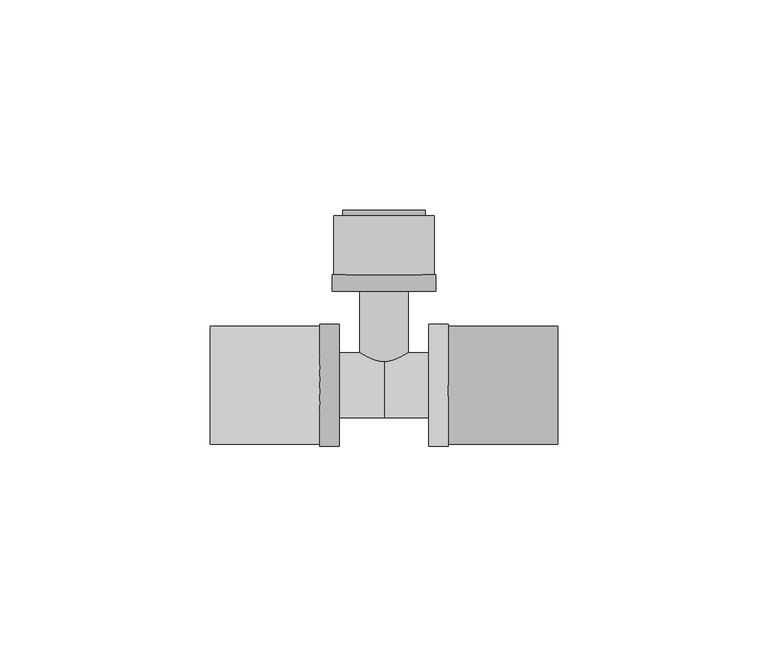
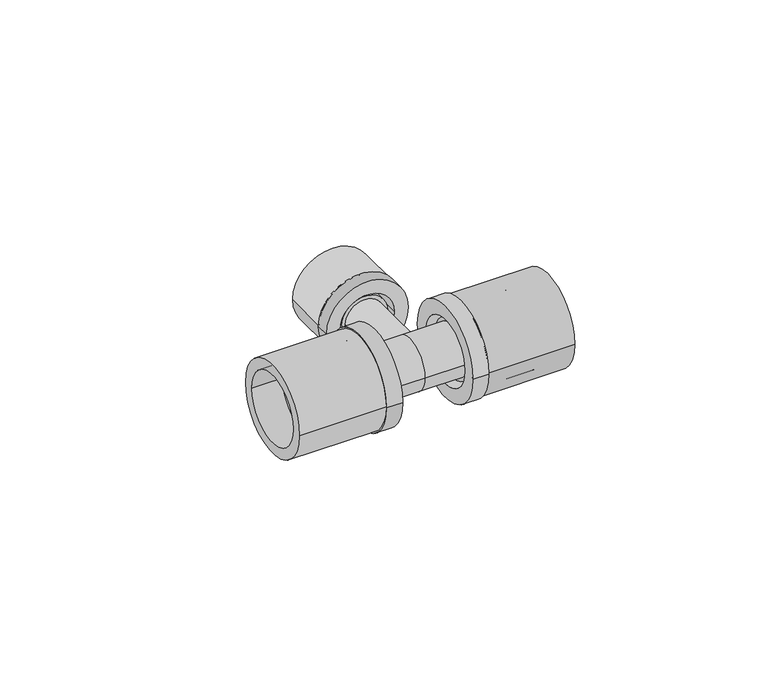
"""IFC4 building model written with IfcOpenShell, lengths in millimetres: pipe fitting geometry, FASTLOC_T-piece_EX+ : FSL T-Piece EX+ AT."""

import ifcopenshell
import ifcopenshell.guid

model = None  # the IFC model being written
_history = None  # IfcOwnerHistory: only IFC2X3 demands one
_inside = {}  # id of a spatial element -> (the spatial element, [elements in it])
_under = {}  # id of a project, library or spatial element -> (it, [spatial elements below it])
_declared = {}  # id of a project -> (the project, [libraries it declares])
_typed = {}  # id of a type object -> (the type object, [elements of that type])
_made_of = {}  # id of a material, layer set ... -> (it, [elements and type objects made of it])


def new_model(schema):
    """Start an empty IFC model of exactly this schema.

    Asked for "IFC4X3", IfcOpenShell would pick the latest addendum, in which some entities
    have other attributes; the version numbers below select the first issue.
    IFC2X3 requires an IfcOwnerHistory on every rooted entity: one is made here for all.
    """
    global model, _history
    if schema == "IFC4X3":
        model = ifcopenshell.file(schema_version=(4, 3, 0, 0))
    else:
        model = ifcopenshell.file(schema=schema)
    _inside.clear()
    _under.clear()
    _declared.clear()
    _typed.clear()
    _made_of.clear()
    _history = None
    if model.schema == "IFC2X3":
        org = make("IfcOrganization", Name="unknown")
        user = make(
            "IfcPersonAndOrganization",
            ThePerson=make("IfcPerson", FamilyName="unknown"),
            TheOrganization=org,
        )
        app = make(
            "IfcApplication",
            ApplicationDeveloper=org,
            Version="unknown",
            ApplicationFullName="unknown",
            ApplicationIdentifier="unknown",
        )
        _history = make(
            "IfcOwnerHistory",
            OwningUser=user,
            OwningApplication=app,
            ChangeAction="ADDED",
            CreationDate=0,
        )
    return model


def make(cls, **values):
    """One entity of the class cls with the attributes given. An attribute that is None is left unset."""
    return model.create_entity(
        cls, **{name: value for name, value in values.items() if value is not None}
    )


def rooted(cls, **values):
    """An entity with a GlobalId (a new one), such as an element, a storey or a relation."""
    return make(cls, GlobalId=ifcopenshell.guid.new(), OwnerHistory=_history, **values)


def si_unit(unit_type, name, prefix=None):
    """IfcSIUnit, for example si_unit("LENGTHUNIT", "METRE", prefix="MILLI")."""
    return make("IfcSIUnit", UnitType=unit_type, Prefix=prefix, Name=name)


def assignment(units):
    """IfcUnitAssignment: the units of a project."""
    return None if units is None else make("IfcUnitAssignment", Units=units)


def point(xyz):
    """IfcCartesianPoint."""
    return None if xyz is None else make("IfcCartesianPoint", Coordinates=xyz)


def direction(xyz):
    """IfcDirection."""
    return None if xyz is None else make("IfcDirection", DirectionRatios=xyz)


def frame(location, z_axis=None, x_axis=None):
    """IfcAxis2Placement3D, a coordinate frame: its origin and axes. An axis left out is left unset."""
    return make(
        "IfcAxis2Placement3D",
        Location=point(location),
        Axis=direction(z_axis),
        RefDirection=direction(x_axis),
    )


def frame_2d(location, x_axis=None):
    """IfcAxis2Placement2D, a coordinate frame in the plane: its origin and x axis."""
    return make(
        "IfcAxis2Placement2D", Location=point(location), RefDirection=direction(x_axis)
    )


def origin():
    """The frame at (0, 0, 0) with its axes left unset."""
    return frame((0.0, 0.0, 0.0))


def origin_2d():
    """The frame at (0, 0) in the plane with its x axis left unset."""
    return frame_2d((0.0, 0.0))


def place(relative_to, where):
    """IfcLocalPlacement: puts the frame where relative to a parent placement (None: the world)."""
    return make(
        "IfcLocalPlacement", PlacementRelTo=relative_to, RelativePlacement=where
    )


def context(
    kind, dimensions, precision=None, world=None, true_north=None, identifier=None
):
    """IfcGeometricRepresentationContext, for example the 3D "Model" context."""
    return make(
        "IfcGeometricRepresentationContext",
        ContextIdentifier=identifier,
        ContextType=kind,
        CoordinateSpaceDimension=dimensions,
        Precision=precision,
        WorldCoordinateSystem=world,
        TrueNorth=true_north,
    )


def project(units=None, contexts=None):
    """IfcProject with its units and contexts."""
    return rooted(
        "IfcProject",
        Name="project",
        RepresentationContexts=contexts,
        UnitsInContext=assignment(units),
    )


def spatial(cls, under=None, at=None, **own):
    """A site, building, storey or space (cls), placed at a placement, below another one or the project."""
    s = rooted(cls, ObjectPlacement=at, **own)
    if under is not None:
        _under.setdefault(under.id(), (under, []))[1].append(s)
    return s


def polyline(points):
    """IfcPolyline through the points."""
    return make("IfcPolyline", Points=[point(p) for p in points])


def circle_curve(where, radius):
    """IfcCircle in the frame where."""
    return make("IfcCircle", Position=where, Radius=radius)


def trimmed(basis, trim1, trim2, sense, master):
    """IfcTrimmedCurve: the piece of a basis curve between two trims."""
    return make(
        "IfcTrimmedCurve",
        BasisCurve=basis,
        Trim1=trim1,
        Trim2=trim2,
        SenseAgreement=sense,
        MasterRepresentation=master,
    )


def segment(curve, same_sense, transition):
    """IfcCompositeCurveSegment."""
    return make(
        "IfcCompositeCurveSegment",
        Transition=transition,
        SameSense=same_sense,
        ParentCurve=curve,
    )


def composite_curve(segments, self_intersect=None):
    """IfcCompositeCurve: segments joined end to end."""
    return make("IfcCompositeCurve", Segments=segments, SelfIntersect=self_intersect)


def outline(outer, holes=None, kind="AREA"):
    """IfcArbitraryClosedProfileDef: a profile drawn as a closed curve; with holes, ...WithVoids."""
    if holes is None:
        return make("IfcArbitraryClosedProfileDef", ProfileType=kind, OuterCurve=outer)
    return make(
        "IfcArbitraryProfileDefWithVoids",
        ProfileType=kind,
        OuterCurve=outer,
        InnerCurves=holes,
    )


def extrude(swept, where, along, depth):
    """IfcExtrudedAreaSolid: the profile swept, set in the frame where, extruded along a direction by depth."""
    return make(
        "IfcExtrudedAreaSolid",
        SweptArea=swept,
        Position=where,
        ExtrudedDirection=direction(along),
        Depth=depth,
    )


def shape(context_of_items, identifier, shape_type, items):
    """IfcShapeRepresentation: the items that make up one representation, for example the "Body"."""
    return make(
        "IfcShapeRepresentation",
        ContextOfItems=context_of_items,
        RepresentationIdentifier=identifier,
        RepresentationType=shape_type,
        Items=items,
    )


def source(mapping_origin, context_of_items, identifier, shape_type, items):
    """IfcRepresentationMap: a shape defined once, which mapped items show again and again."""
    return make(
        "IfcRepresentationMap",
        MappingOrigin=mapping_origin,
        MappedRepresentation=shape(context_of_items, identifier, shape_type, items),
    )


def transform(
    local_origin,
    x_axis=None,
    y_axis=None,
    z_axis=None,
    scale=None,
    scale2=None,
    scale3=None,
    uniform=True,
):
    """IfcCartesianTransformationOperator3D, or its non-uniform kind. x_axis, y_axis, z_axis: its Axis1, 2, 3."""
    if uniform:
        return make(
            "IfcCartesianTransformationOperator3D",
            Axis1=direction(x_axis),
            Axis2=direction(y_axis),
            LocalOrigin=point(local_origin),
            Scale=scale,
            Axis3=direction(z_axis),
        )
    return make(
        "IfcCartesianTransformationOperator3DnonUniform",
        Axis1=direction(x_axis),
        Axis2=direction(y_axis),
        LocalOrigin=point(local_origin),
        Scale=scale,
        Axis3=direction(z_axis),
        Scale2=scale2,
        Scale3=scale3,
    )


def mapped(mapping_source, mapping_target):
    """IfcMappedItem: shows the shape of a source again, moved by a transform."""
    return make(
        "IfcMappedItem", MappingSource=mapping_source, MappingTarget=mapping_target
    )


def made_of(thing, what):
    """Note that an element or type object is made of a material, layer set ...; save() writes the relation."""
    if what is not None:
        _made_of.setdefault(what.id(), (what, []))[1].append(thing)
    return thing


def element(
    cls,
    number,
    at=None,
    inside=None,
    cuts=None,
    type_object=None,
    material=None,
    context=None,
    identifier="Body",
    shape_type=None,
    held_by="IfcProductDefinitionShape",
    body=None,
    shapes=None,
    **own,
):
    """One element of the class cls, such as IfcWall. Its Tag is "e" and its number.

    at: its placement. inside: the storey or other place that contains it. cuts: it is an
    opening in that element (IfcRelVoidsElement). A single representation is given by context,
    identifier, shape_type and body (its items); several are given by shapes. held_by: the class
    of the entity that holds the representations. save() writes the other relations.
    """
    e = rooted(cls, Tag="e%d" % number, ObjectPlacement=at, **own)
    if body is not None:
        shapes = [shape(context, identifier, shape_type, body)]
    if shapes is not None:
        e.Representation = make(held_by, Representations=shapes)
    if inside is not None:
        _inside.setdefault(inside.id(), (inside, []))[1].append(e)
    if cuts is not None:
        rooted(
            "IfcRelVoidsElement", RelatingBuildingElement=cuts, RelatedOpeningElement=e
        )
    if type_object is not None:
        _typed.setdefault(type_object.id(), (type_object, []))[1].append(e)
    return made_of(e, material)


def aggregate(whole, parts):
    """IfcRelAggregates: a whole, such as a stair, and the parts it consists of."""
    return rooted("IfcRelAggregates", RelatingObject=whole, RelatedObjects=parts)


def save(model, path):
    """Write the relations noted so far, then the file.

    IfcRelAggregates (storeys below a building ...), IfcRelContainedInSpatialStructure (elements
    in a storey), IfcRelDefinesByType, IfcRelAssociatesMaterial and IfcRelDeclares: one each for
    every whole, place, type object, material and project.
    """
    for whole, parts in _under.values():
        aggregate(whole, parts)
    for where, things in _inside.values():
        rooted(
            "IfcRelContainedInSpatialStructure",
            RelatedElements=things,
            RelatingStructure=where,
        )
    for kind, things in _typed.values():
        rooted("IfcRelDefinesByType", RelatedObjects=things, RelatingType=kind)
    for what, things in _made_of.values():
        rooted("IfcRelAssociatesMaterial", RelatedObjects=things, RelatingMaterial=what)
    for by, libraries in _declared.values():
        rooted("IfcRelDeclares", RelatingContext=by, RelatedDefinitions=libraries)
    model.write(path)


def plane_surface(at):
    """IfcPlane: the flat surface through the origin of the frame at, square to its z axis."""
    return make("IfcPlane", Position=at)


def cylinder_surface(at, radius):
    """IfcCylindricalSurface: all points at the distance radius from the z axis of the frame at."""
    return make("IfcCylindricalSurface", Position=at, Radius=radius)


def revolved_surface(curve, axis_point, axis_direction):
    """IfcSurfaceOfRevolution: the curve turned about the line through axis_point along axis_direction."""
    return make(
        "IfcSurfaceOfRevolution",
        SweptCurve=make("IfcArbitraryOpenProfileDef", ProfileType="CURVE", Curve=curve),
        AxisPosition=make("IfcAxis1Placement", Location=point(axis_point), Axis=direction(axis_direction)),
    )


def advanced_brep(points, edges, surfaces, faces):
    """IfcAdvancedBrep: a solid bounded by faces that lie on surfaces and meet in shared edges.

    An edge is (start, end): straight between two places in points (the first is 0);
    or (start, end, curve); or (start, end, curve, False) where it runs against its curve.
    A face is (place in surfaces, loops), or (place, loops, False) where it looks against
    its surface's normal. A loop lists edges by number (the first is 1), with a minus sign
    where the edge is run from its end to its start. The first loop is the outer one.
    """
    corners = [point(p) for p in points]
    vertices = [make("IfcVertexPoint", VertexGeometry=c) for c in corners]
    made = []
    for start, end, *more in edges:
        made.append(
            make(
                "IfcEdgeCurve",
                EdgeStart=vertices[start],
                EdgeEnd=vertices[end],
                EdgeGeometry=more[0] if more else make("IfcPolyline", Points=[corners[start], corners[end]]),
                SameSense=more[1] if len(more) > 1 else True,
            )
        )
    hull = []
    for where, loops, *sense in faces:
        bounds = []
        for j, loop in enumerate(loops):
            ring = [make("IfcOrientedEdge", EdgeElement=made[abs(k) - 1], Orientation=k > 0) for k in loop]
            bounds.append(
                make(
                    "IfcFaceOuterBound" if j == 0 else "IfcFaceBound",
                    Bound=make("IfcEdgeLoop", EdgeList=ring),
                    Orientation=True,
                )
            )
        hull.append(make("IfcAdvancedFace", Bounds=bounds, FaceSurface=surfaces[where], SameSense=sense[0] if sense else True))
    return make("IfcAdvancedBrep", Outer=make("IfcClosedShell", CfsFaces=hull))


def pipe_fitting_747b917b(model_context):
    return source(origin(), model_context, "Body", "SolidModel", [
        extrude(outline(composite_curve([segment(trimmed(circle_curve(origin_2d(), 14.0), [point((-14.0, 0.0))], [point((14.0, 0.0))], False, "CARTESIAN"), True, "CONTINUOUS"), segment(trimmed(circle_curve(origin_2d(), 14.0), [point((14.0, 0.0))], [point((-14.0, 0.0))], False, "CARTESIAN"), True, "CONTINUOUS")], self_intersect=False), holes=[composite_curve([segment(trimmed(circle_curve(origin_2d(), 10.7), [point((-10.7, 0.0))], [point((10.7, 0.0))], True, "CARTESIAN"), True, "CONTINUOUS"), segment(trimmed(circle_curve(origin_2d(), 10.7), [point((10.7, 0.0))], [point((-10.7, 0.0))], True, "CARTESIAN"), True, "CONTINUOUS")], self_intersect=False)]), frame((15.3, 0.0, 0.0), z_axis=(1.0, 0.0, 0.0), x_axis=(0.0, 1.0, 0.0)), (0.0, 0.0, 1.0), 26.0),
        advanced_brep(
        [(15.3, 14.5, 0.0), (15.3, -14.5, 0.0), (10.6, -14.5, 0.0), (10.6, 14.5, 0.0), (32.3, 11.85, 0.0), (32.3, -11.85, 0.0), (15.3, -11.85, 0.0), (15.3, 11.85, 0.0), (10.6, 10.15, 0.0), (10.6, -10.15, 0.0), (32.3, -10.15, 0.0), (32.3, 10.15, 0.0)],
        [
            (0, 1, circle_curve(frame((15.3, 0.0, 0.0), z_axis=(-1.0, 0.0, 0.0), x_axis=(0.0, -1.0, 0.0)), 14.5)),
            (1, 2),
            (2, 3, circle_curve(frame((10.6, 0.0, 0.0), z_axis=(1.0, 0.0, 0.0), x_axis=(0.0, -1.0, 0.0)), 14.5)),
            (3, 0),
            (4, 5, circle_curve(frame((32.3, 0.0, 0.0), z_axis=(-1.0, 0.0, 0.0), x_axis=(0.0, -1.0, 0.0)), 11.85)),
            (5, 6),
            (6, 7, circle_curve(frame((15.3, 0.0, 0.0), z_axis=(1.0, 0.0, 0.0), x_axis=(0.0, -1.0, 0.0)), 11.85)),
            (7, 4),
            (8, 9, circle_curve(frame((10.6, 0.0, 0.0), z_axis=(-1.0, 0.0, 0.0), x_axis=(0.0, -1.0, 0.0)), 10.15)),
            (9, 10),
            (10, 11, circle_curve(frame((32.3, 0.0, 0.0), z_axis=(1.0, 0.0, 0.0), x_axis=(0.0, -1.0, 0.0)), 10.15)),
            (11, 8),
            (1, 0, circle_curve(frame((15.3, 0.0, 0.0), z_axis=(-1.0, 0.0, 0.0), x_axis=(0.0, 1.0, 0.0)), 14.5)),
            (3, 2, circle_curve(frame((10.6, 0.0, 0.0), z_axis=(1.0, 0.0, 0.0), x_axis=(0.0, 1.0, 0.0)), 14.5)),
            (6, 7, circle_curve(frame((15.3, 0.0, 0.0), z_axis=(-1.0, 0.0, 0.0), x_axis=(0.0, 1.0, 0.0)), 11.85)),
            (5, 4, circle_curve(frame((32.3, 0.0, 0.0), z_axis=(-1.0, 0.0, 0.0), x_axis=(0.0, 1.0, 0.0)), 11.85)),
            (10, 11, circle_curve(frame((32.3, 0.0, 0.0), z_axis=(-1.0, 0.0, 0.0), x_axis=(0.0, 1.0, 0.0)), 10.15)),
            (9, 8, circle_curve(frame((10.6, 0.0, 0.0), z_axis=(-1.0, 0.0, 0.0), x_axis=(0.0, 1.0, 0.0)), 10.15)),
        ],
        [
            cylinder_surface(frame((10.6, 0.0, 0.0), z_axis=(1.0, 0.0, 0.0), x_axis=(0.0, -1.0, 0.0)), 14.5),
            cylinder_surface(frame((10.6, 0.0, 0.0), z_axis=(1.0, 0.0, 0.0), x_axis=(0.0, -1.0, 0.0)), 11.85),
            revolved_surface(polyline([(32.3, -10.15, 0.0), (10.6, -10.15, 0.0)]), (10.6, 0.0, 0.0), (1.0, 0.0, 0.0)),
            cylinder_surface(frame((10.6, 0.0, 0.0), z_axis=(1.0, 0.0, 0.0), x_axis=(0.0, 1.0, 0.0)), 14.5),
            plane_surface(frame((15.3, 0.0, 0.0), z_axis=(1.0, 0.0, 0.0), x_axis=(0.0, 1.0, 0.0))),
            cylinder_surface(frame((10.6, 0.0, 0.0), z_axis=(1.0, 0.0, 0.0), x_axis=(0.0, 1.0, 0.0)), 11.85),
            plane_surface(frame((32.3, 0.0, 0.0), z_axis=(1.0, 0.0, 0.0), x_axis=(0.0, 1.0, 0.0))),
            revolved_surface(polyline([(32.3, 10.15, 0.0), (10.6, 10.15, 0.0)]), (10.6, 0.0, 0.0), (1.0, 0.0, 0.0)),
            plane_surface(frame((10.6, 0.0, 0.0), z_axis=(-1.0, 0.0, 0.0), x_axis=(0.0, 1.0, 0.0))),
        ],
        [
            (0, [[1, 2, 3, 4]]),
            (1, [[5, 6, 7, 8]]),
            (2, [[9, 10, 11, 12]]),
            (3, [[13, -4, 14, -2]]),
            (4, [[-13, -1], [15, -7]]),
            (5, [[16, -8, -15, -6]]),
            (6, [[-16, -5], [17, -11]]),
            (7, [[18, -12, -17, -10]]),
            (8, [[-14, -3], [-18, -9]]),
        ],
    ),
        extrude(outline(composite_curve([segment(trimmed(circle_curve(origin_2d(), 14.0), [point((14.0, 0.0))], [point((-14.0, 0.0))], False, "CARTESIAN"), True, "CONTINUOUS"), segment(trimmed(circle_curve(origin_2d(), 14.0), [point((-14.0, 0.0))], [point((14.0, 0.0))], False, "CARTESIAN"), True, "CONTINUOUS")], self_intersect=False), holes=[composite_curve([segment(trimmed(circle_curve(origin_2d(), 10.7), [point((10.7, 0.0))], [point((-10.7, 0.0))], True, "CARTESIAN"), True, "CONTINUOUS"), segment(trimmed(circle_curve(origin_2d(), 10.7), [point((-10.7, 0.0))], [point((10.7, 0.0))], True, "CARTESIAN"), True, "CONTINUOUS")], self_intersect=False)]), frame((-41.3, 0.0, 0.0), z_axis=(1.0, 0.0, 0.0), x_axis=(0.0, 1.0, 0.0)), (0.0, 0.0, 1.0), 26.0),
        advanced_brep(
        [(-15.3, -14.5, 0.0), (-15.3, 14.5, 0.0), (-10.6, 14.5, 0.0), (-10.6, -14.5, 0.0), (-32.3, -11.85, 0.0), (-32.3, 11.85, 0.0), (-15.3, 11.85, 0.0), (-15.3, -11.85, 0.0), (-10.6, -10.15, 0.0), (-10.6, 10.15, 0.0), (-32.3, 10.15, 0.0), (-32.3, -10.15, 0.0)],
        [
            (0, 1, circle_curve(frame((-15.3, 0.0, 0.0), z_axis=(1.0, 0.0, 0.0), x_axis=(0.0, 1.0, 0.0)), 14.5)),
            (1, 2),
            (2, 3, circle_curve(frame((-10.6, 0.0, 0.0), z_axis=(-1.0, 0.0, 0.0), x_axis=(0.0, 1.0, 0.0)), 14.5)),
            (3, 0),
            (4, 5, circle_curve(frame((-32.3, 0.0, 0.0), z_axis=(1.0, 0.0, 0.0), x_axis=(0.0, 1.0, 0.0)), 11.85)),
            (5, 6),
            (6, 7, circle_curve(frame((-15.3, 0.0, 0.0), z_axis=(-1.0, 0.0, 0.0), x_axis=(0.0, 1.0, 0.0)), 11.85)),
            (7, 4),
            (8, 9, circle_curve(frame((-10.6, 0.0, 0.0), z_axis=(1.0, 0.0, 0.0), x_axis=(0.0, 1.0, 0.0)), 10.15)),
            (9, 10),
            (10, 11, circle_curve(frame((-32.3, 0.0, 0.0), z_axis=(-1.0, 0.0, 0.0), x_axis=(0.0, 1.0, 0.0)), 10.15)),
            (11, 8),
            (1, 0, circle_curve(frame((-15.3, 0.0, 0.0), z_axis=(1.0, 0.0, 0.0), x_axis=(0.0, -1.0, 0.0)), 14.5)),
            (3, 2, circle_curve(frame((-10.6, 0.0, 0.0), z_axis=(-1.0, 0.0, 0.0), x_axis=(0.0, -1.0, 0.0)), 14.5)),
            (6, 7, circle_curve(frame((-15.3, 0.0, 0.0), z_axis=(1.0, 0.0, 0.0), x_axis=(0.0, -1.0, 0.0)), 11.85)),
            (5, 4, circle_curve(frame((-32.3, 0.0, 0.0), z_axis=(1.0, 0.0, 0.0), x_axis=(0.0, -1.0, 0.0)), 11.85)),
            (10, 11, circle_curve(frame((-32.3, 0.0, 0.0), z_axis=(1.0, 0.0, 0.0), x_axis=(0.0, -1.0, 0.0)), 10.15)),
            (9, 8, circle_curve(frame((-10.6, 0.0, 0.0), z_axis=(1.0, 0.0, 0.0), x_axis=(0.0, -1.0, 0.0)), 10.15)),
        ],
        [
            cylinder_surface(frame((-10.6, 0.0, 0.0), z_axis=(-1.0, 0.0, 0.0), x_axis=(0.0, 1.0, 0.0)), 14.5),
            cylinder_surface(frame((-10.6, 0.0, 0.0), z_axis=(-1.0, 0.0, 0.0), x_axis=(0.0, 1.0, 0.0)), 11.85),
            revolved_surface(polyline([(-32.3, 10.15, 0.0), (-10.6, 10.15, 0.0)]), (-10.6, 0.0, 0.0), (-1.0, 0.0, 0.0)),
            cylinder_surface(frame((-10.6, 0.0, 0.0), z_axis=(-1.0, 0.0, 0.0), x_axis=(0.0, -1.0, 0.0)), 14.5),
            plane_surface(frame((-15.3, 0.0, 0.0), z_axis=(-1.0, 0.0, 0.0), x_axis=(0.0, -1.0, 0.0))),
            cylinder_surface(frame((-10.6, 0.0, 0.0), z_axis=(-1.0, 0.0, 0.0), x_axis=(0.0, -1.0, 0.0)), 11.85),
            plane_surface(frame((-32.3, 0.0, 0.0), z_axis=(-1.0, 0.0, 0.0), x_axis=(0.0, -1.0, 0.0))),
            revolved_surface(polyline([(-32.3, -10.15, 0.0), (-10.6, -10.15, 0.0)]), (-10.6, 0.0, 0.0), (-1.0, 0.0, 0.0)),
            plane_surface(frame((-10.6, 0.0, 0.0), z_axis=(1.0, 0.0, 0.0), x_axis=(0.0, -1.0, 0.0))),
        ],
        [
            (0, [[1, 2, 3, 4]]),
            (1, [[5, 6, 7, 8]]),
            (2, [[9, 10, 11, 12]]),
            (3, [[13, -4, 14, -2]]),
            (4, [[-13, -1], [15, -7]]),
            (5, [[16, -8, -15, -6]]),
            (6, [[-16, -5], [17, -11]]),
            (7, [[18, -12, -17, -10]]),
            (8, [[-14, -3], [-18, -9]]),
        ],
    ),
        extrude(outline(composite_curve([segment(trimmed(circle_curve(origin_2d(), 12.0), [point((0.0, 12.0))], [point((0.0, -12.0))], False, "CARTESIAN"), True, "CONTINUOUS"), segment(trimmed(circle_curve(origin_2d(), 12.0), [point((0.0, -12.0))], [point((0.0, 12.0))], False, "CARTESIAN"), True, "CONTINUOUS")], self_intersect=False), holes=[composite_curve([segment(trimmed(circle_curve(origin_2d(), 8.85), [point((0.0, 8.85))], [point((0.0, -8.85))], True, "CARTESIAN"), True, "CONTINUOUS"), segment(trimmed(circle_curve(origin_2d(), 8.85), [point((0.0, -8.85))], [point((0.0, 8.85))], True, "CARTESIAN"), True, "CONTINUOUS")], self_intersect=False)]), frame((0.0, 26.3, 0.0), z_axis=(0.0, 1.0, 0.0), x_axis=(0.0, 0.0, 1.0)), (0.0, 0.0, 1.0), 14.0),
        advanced_brep(
        [(-12.35, 26.3, 0.0), (12.35, 26.3, 0.0), (12.35, 22.3, 0.0), (-12.35, 22.3, 0.0), (-9.85, 41.6, 0.0), (9.85, 41.6, 0.0), (9.85, 26.3, 0.0), (-9.85, 26.3, 0.0), (-8.15, 22.3, 0.0), (8.15, 22.3, 0.0), (8.15, 41.6, 0.0), (-8.15, 41.6, 0.0)],
        [
            (0, 1, circle_curve(frame((0.0, 26.3, 0.0), z_axis=(0.0, -1.0, 0.0), x_axis=(1.0, 0.0, 0.0)), 12.35)),
            (1, 2),
            (2, 3, circle_curve(frame((0.0, 22.3, 0.0), z_axis=(0.0, 1.0, 0.0), x_axis=(1.0, 0.0, 0.0)), 12.35)),
            (3, 0),
            (4, 5, circle_curve(frame((0.0, 41.6, 0.0), z_axis=(0.0, -1.0, 0.0), x_axis=(1.0, 0.0, 0.0)), 9.85)),
            (5, 6),
            (6, 7, circle_curve(frame((0.0, 26.3, 0.0), z_axis=(0.0, 1.0, 0.0), x_axis=(1.0, 0.0, 0.0)), 9.85)),
            (7, 4),
            (8, 9, circle_curve(frame((0.0, 22.3, 0.0), z_axis=(0.0, -1.0, 0.0), x_axis=(1.0, 0.0, 0.0)), 8.15)),
            (9, 10),
            (10, 11, circle_curve(frame((0.0, 41.6, 0.0), z_axis=(0.0, 1.0, 0.0), x_axis=(1.0, 0.0, 0.0)), 8.15)),
            (11, 8),
            (1, 0, circle_curve(frame((0.0, 26.3, 0.0), z_axis=(0.0, -1.0, 0.0), x_axis=(-1.0, 0.0, 0.0)), 12.35)),
            (3, 2, circle_curve(frame((0.0, 22.3, 0.0), z_axis=(0.0, 1.0, 0.0), x_axis=(-1.0, 0.0, 0.0)), 12.35)),
            (6, 7, circle_curve(frame((0.0, 26.3, 0.0), z_axis=(0.0, -1.0, 0.0), x_axis=(-1.0, 0.0, 0.0)), 9.85)),
            (5, 4, circle_curve(frame((0.0, 41.6, 0.0), z_axis=(0.0, -1.0, 0.0), x_axis=(-1.0, 0.0, 0.0)), 9.85)),
            (10, 11, circle_curve(frame((0.0, 41.6, 0.0), z_axis=(0.0, -1.0, 0.0), x_axis=(-1.0, 0.0, 0.0)), 8.15)),
            (9, 8, circle_curve(frame((0.0, 22.3, 0.0), z_axis=(0.0, -1.0, 0.0), x_axis=(-1.0, 0.0, 0.0)), 8.15)),
        ],
        [
            cylinder_surface(frame((0.0, 22.3, 0.0), z_axis=(0.0, 1.0, 0.0), x_axis=(1.0, 0.0, 0.0)), 12.35),
            cylinder_surface(frame((0.0, 22.3, 0.0), z_axis=(0.0, 1.0, 0.0), x_axis=(1.0, 0.0, 0.0)), 9.85),
            revolved_surface(polyline([(8.15, 41.6, 0.0), (8.15, 22.3, 0.0)]), (0.0, 22.3, 0.0), (0.0, 1.0, 0.0)),
            cylinder_surface(frame((0.0, 22.3, 0.0), z_axis=(0.0, 1.0, 0.0), x_axis=(-1.0, 0.0, 0.0)), 12.35),
            plane_surface(frame((0.0, 26.3, 0.0), z_axis=(0.0, 1.0, 0.0), x_axis=(-1.0, 0.0, 0.0))),
            cylinder_surface(frame((0.0, 22.3, 0.0), z_axis=(0.0, 1.0, 0.0), x_axis=(-1.0, 0.0, 0.0)), 9.85),
            plane_surface(frame((0.0, 41.6, 0.0), z_axis=(0.0, 1.0, 0.0), x_axis=(-1.0, 0.0, 0.0))),
            revolved_surface(polyline([(-8.15, 41.6, 0.0), (-8.15, 22.3, 0.0)]), (0.0, 22.3, 0.0), (0.0, 1.0, 0.0)),
            plane_surface(frame((0.0, 22.3, 0.0), z_axis=(0.0, -1.0, 0.0), x_axis=(-1.0, 0.0, 0.0))),
        ],
        [
            (0, [[1, 2, 3, 4]]),
            (1, [[5, 6, 7, 8]]),
            (2, [[9, 10, 11, 12]]),
            (3, [[13, -4, 14, -2]]),
            (4, [[-13, -1], [15, -7]]),
            (5, [[16, -8, -15, -6]]),
            (6, [[-16, -5], [17, -11]]),
            (7, [[18, -12, -17, -10]]),
            (8, [[-14, -3], [-18, -9]]),
        ],
    ),
        advanced_brep(
        [(0.0, 7.75, 0.0), (0.0, -7.75, 0.0), (-12.63, -7.75, 0.0), (-12.63, 7.75, 0.0), (12.63, 7.75, 0.0), (12.63, -7.75, 0.0), (15.3, 8.8, 0.0), (15.3, -8.8, 0.0), (12.63, -8.8, 0.0), (12.63, 8.8, 0.0), (32.7, 7.75, 0.0), (32.7, -7.75, 0.0), (15.3, -7.75, 0.0), (15.3, 7.75, 0.0), (-32.7, 5.75, 0.0), (-32.7, -5.75, 0.0), (32.7, -5.75, 0.0), (32.7, 5.75, 0.0), (-15.3, 7.75, 0.0), (-15.3, -7.75, 0.0), (-32.7, -7.75, 0.0), (-32.7, 7.75, 0.0), (-12.63, 8.8, 0.0), (-12.63, -8.8, 0.0), (-15.3, -8.8, 0.0), (-15.3, 8.8, 0.0)],
        [
            (0, 1, circle_curve(frame((0.0, 0.0, 0.0), z_axis=(-1.0, 0.0, 0.0), x_axis=(0.0, -1.0, 0.0)), 7.75)),
            (1, 2),
            (2, 3, circle_curve(frame((-12.63, 0.0, 0.0), z_axis=(1.0, 0.0, 0.0), x_axis=(0.0, -1.0, 0.0)), 7.75)),
            (3, 0),
            (4, 5, circle_curve(frame((12.63, 0.0, 0.0), z_axis=(-1.0, 0.0, 0.0), x_axis=(0.0, -1.0, 0.0)), 7.75)),
            (5, 1),
            (0, 4),
            (6, 7, circle_curve(frame((15.3, 0.0, 0.0), z_axis=(-1.0, 0.0, 0.0), x_axis=(0.0, -1.0, 0.0)), 8.8)),
            (7, 8),
            (8, 9, circle_curve(frame((12.63, 0.0, 0.0), z_axis=(1.0, 0.0, 0.0), x_axis=(0.0, -1.0, 0.0)), 8.8)),
            (9, 6),
            (10, 11, circle_curve(frame((32.7, 0.0, 0.0), z_axis=(-1.0, 0.0, 0.0), x_axis=(0.0, -1.0, 0.0)), 7.75)),
            (11, 12),
            (12, 13, circle_curve(frame((15.3, 0.0, 0.0), z_axis=(1.0, 0.0, 0.0), x_axis=(0.0, -1.0, 0.0)), 7.75)),
            (13, 10),
            (14, 15, circle_curve(frame((-32.7, 0.0, 0.0), z_axis=(-1.0, 0.0, 0.0), x_axis=(0.0, -1.0, 0.0)), 5.75)),
            (15, 16),
            (16, 17, circle_curve(frame((32.7, 0.0, 0.0), z_axis=(1.0, 0.0, 0.0), x_axis=(0.0, -1.0, 0.0)), 5.75)),
            (17, 14),
            (18, 19, circle_curve(frame((-15.3, 0.0, 0.0), z_axis=(-1.0, 0.0, 0.0), x_axis=(0.0, -1.0, 0.0)), 7.75)),
            (19, 20),
            (20, 21, circle_curve(frame((-32.7, 0.0, 0.0), z_axis=(1.0, 0.0, 0.0), x_axis=(0.0, -1.0, 0.0)), 7.75)),
            (21, 18),
            (22, 23, circle_curve(frame((-12.63, 0.0, 0.0), z_axis=(-1.0, 0.0, 0.0), x_axis=(0.0, -1.0, 0.0)), 8.8)),
            (23, 24),
            (24, 25, circle_curve(frame((-15.3, 0.0, 0.0), z_axis=(1.0, 0.0, 0.0), x_axis=(0.0, -1.0, 0.0)), 8.8)),
            (25, 22),
            (22, 23, circle_curve(frame((-12.63, 0.0, 0.0), z_axis=(1.0, 0.0, 0.0), x_axis=(0.0, 1.0, 0.0)), 8.8)),
            (2, 3, circle_curve(frame((-12.63, 0.0, 0.0), z_axis=(-1.0, 0.0, 0.0), x_axis=(0.0, 1.0, 0.0)), 7.75)),
            (1, 0, circle_curve(frame((0.0, 0.0, 0.0), z_axis=(-1.0, 0.0, 0.0), x_axis=(0.0, 1.0, 0.0)), 7.75)),
            (5, 4, circle_curve(frame((12.63, 0.0, 0.0), z_axis=(-1.0, 0.0, 0.0), x_axis=(0.0, 1.0, 0.0)), 7.75)),
            (8, 9, circle_curve(frame((12.63, 0.0, 0.0), z_axis=(-1.0, 0.0, 0.0), x_axis=(0.0, 1.0, 0.0)), 8.8)),
            (7, 6, circle_curve(frame((15.3, 0.0, 0.0), z_axis=(-1.0, 0.0, 0.0), x_axis=(0.0, 1.0, 0.0)), 8.8)),
            (12, 13, circle_curve(frame((15.3, 0.0, 0.0), z_axis=(-1.0, 0.0, 0.0), x_axis=(0.0, 1.0, 0.0)), 7.75)),
            (11, 10, circle_curve(frame((32.7, 0.0, 0.0), z_axis=(-1.0, 0.0, 0.0), x_axis=(0.0, 1.0, 0.0)), 7.75)),
            (16, 17, circle_curve(frame((32.7, 0.0, 0.0), z_axis=(-1.0, 0.0, 0.0), x_axis=(0.0, 1.0, 0.0)), 5.75)),
            (15, 14, circle_curve(frame((-32.7, 0.0, 0.0), z_axis=(-1.0, 0.0, 0.0), x_axis=(0.0, 1.0, 0.0)), 5.75)),
            (20, 21, circle_curve(frame((-32.7, 0.0, 0.0), z_axis=(-1.0, 0.0, 0.0), x_axis=(0.0, 1.0, 0.0)), 7.75)),
            (19, 18, circle_curve(frame((-15.3, 0.0, 0.0), z_axis=(-1.0, 0.0, 0.0), x_axis=(0.0, 1.0, 0.0)), 7.75)),
            (24, 25, circle_curve(frame((-15.3, 0.0, 0.0), z_axis=(-1.0, 0.0, 0.0), x_axis=(0.0, 1.0, 0.0)), 8.8)),
        ],
        [
            cylinder_surface(frame((0.0, 0.0, 0.0), z_axis=(1.0, 0.0, 0.0), x_axis=(0.0, -1.0, 0.0)), 7.75),
            cylinder_surface(frame((0.0, 0.0, 0.0), z_axis=(1.0, 0.0, 0.0), x_axis=(0.0, -1.0, 0.0)), 8.8),
            revolved_surface(polyline([(32.7, -5.75, 0.0), (-32.7, -5.75, 0.0)]), (0.0, 0.0, 0.0), (1.0, 0.0, 0.0)),
            plane_surface(frame((-12.63, 0.0, 0.0), z_axis=(1.0, 0.0, 0.0), x_axis=(0.0, 1.0, 0.0))),
            cylinder_surface(frame((0.0, 0.0, 0.0), z_axis=(1.0, 0.0, 0.0), x_axis=(0.0, 1.0, 0.0)), 7.75),
            plane_surface(frame((12.63, 0.0, 0.0), z_axis=(-1.0, 0.0, 0.0), x_axis=(0.0, 1.0, 0.0))),
            cylinder_surface(frame((0.0, 0.0, 0.0), z_axis=(1.0, 0.0, 0.0), x_axis=(0.0, 1.0, 0.0)), 8.8),
            plane_surface(frame((15.3, 0.0, 0.0), z_axis=(1.0, 0.0, 0.0), x_axis=(0.0, 1.0, 0.0))),
            plane_surface(frame((32.7, 0.0, 0.0), z_axis=(1.0, 0.0, 0.0), x_axis=(0.0, 1.0, 0.0))),
            revolved_surface(polyline([(32.7, 5.75, 0.0), (-32.7, 5.75, 0.0)]), (0.0, 0.0, 0.0), (1.0, 0.0, 0.0)),
            plane_surface(frame((-32.7, 0.0, 0.0), z_axis=(-1.0, 0.0, 0.0), x_axis=(0.0, 1.0, 0.0))),
            plane_surface(frame((-15.3, 0.0, 0.0), z_axis=(-1.0, 0.0, 0.0), x_axis=(0.0, 1.0, 0.0))),
        ],
        [
            (0, [[1, 2, 3, 4]]),
            (0, [[5, 6, -1, 7]]),
            (1, [[8, 9, 10, 11]]),
            (0, [[12, 13, 14, 15]]),
            (2, [[16, 17, 18, 19]]),
            (0, [[20, 21, 22, 23]]),
            (1, [[24, 25, 26, 27]]),
            (3, [[28, -24], [29, -3]]),
            (4, [[30, -4, -29, -2]]),
            (4, [[31, -7, -30, -6]]),
            (5, [[32, -10], [-31, -5]]),
            (6, [[33, -11, -32, -9]]),
            (7, [[-33, -8], [34, -14]]),
            (4, [[35, -15, -34, -13]]),
            (8, [[-35, -12], [36, -18]]),
            (9, [[37, -19, -36, -17]]),
            (10, [[38, -22], [-37, -16]]),
            (4, [[39, -23, -38, -21]]),
            (11, [[40, -26], [-39, -20]]),
            (6, [[-28, -27, -40, -25]]),
        ],
    ),
        advanced_brep(
        [(3.95, 41.3, 0.0), (-3.95, 41.3, 0.0), (-3.95, 0.0, 0.0), (3.95, 0.0, 0.0), (5.8, 0.0, 0.0), (-5.8, 0.0, 0.0), (-5.8, 23.59, 0.0), (5.8, 23.59, 0.0), (6.9, 23.59, 0.0), (-6.9, 23.59, 0.0), (-6.9, 26.3, 0.0), (6.9, 26.3, 0.0), (5.8, 26.3, 0.0), (-5.8, 26.3, 0.0), (-5.8, 41.3, 0.0), (5.8, 41.3, 0.0)],
        [
            (0, 1, circle_curve(frame((0.0, 41.3, 0.0), z_axis=(0.0, 1.0, 0.0), x_axis=(-1.0, 0.0, 0.0)), 3.95)),
            (1, 2),
            (2, 3, circle_curve(frame((0.0, 0.0, 0.0), z_axis=(0.0, -1.0, 0.0), x_axis=(-1.0, 0.0, 0.0)), 3.95)),
            (3, 0),
            (4, 5, circle_curve(frame((0.0, 0.0, 0.0), z_axis=(0.0, 1.0, 0.0), x_axis=(-1.0, 0.0, 0.0)), 5.8)),
            (5, 6),
            (6, 7, circle_curve(frame((0.0, 23.59, 0.0), z_axis=(0.0, -1.0, 0.0), x_axis=(-1.0, 0.0, 0.0)), 5.8)),
            (7, 4),
            (8, 9, circle_curve(frame((0.0, 23.59, 0.0), z_axis=(0.0, 1.0, 0.0), x_axis=(-1.0, 0.0, 0.0)), 6.9)),
            (9, 10),
            (10, 11, circle_curve(frame((0.0, 26.3, 0.0), z_axis=(0.0, -1.0, 0.0), x_axis=(-1.0, 0.0, 0.0)), 6.9)),
            (11, 8),
            (12, 13, circle_curve(frame((0.0, 26.3, 0.0), z_axis=(0.0, 1.0, 0.0), x_axis=(-1.0, 0.0, 0.0)), 5.8)),
            (13, 14),
            (14, 15, circle_curve(frame((0.0, 41.3, 0.0), z_axis=(0.0, -1.0, 0.0), x_axis=(-1.0, 0.0, 0.0)), 5.8)),
            (15, 12),
            (1, 0, circle_curve(frame((0.0, 41.3, 0.0), z_axis=(0.0, 1.0, 0.0), x_axis=(1.0, 0.0, 0.0)), 3.95)),
            (3, 2, circle_curve(frame((0.0, 0.0, 0.0), z_axis=(0.0, -1.0, 0.0), x_axis=(1.0, 0.0, 0.0)), 3.95)),
            (4, 5, circle_curve(frame((0.0, 0.0, 0.0), z_axis=(0.0, -1.0, 0.0), x_axis=(1.0, 0.0, 0.0)), 5.8)),
            (7, 6, circle_curve(frame((0.0, 23.59, 0.0), z_axis=(0.0, -1.0, 0.0), x_axis=(1.0, 0.0, 0.0)), 5.8)),
            (8, 9, circle_curve(frame((0.0, 23.59, 0.0), z_axis=(0.0, -1.0, 0.0), x_axis=(1.0, 0.0, 0.0)), 6.9)),
            (11, 10, circle_curve(frame((0.0, 26.3, 0.0), z_axis=(0.0, -1.0, 0.0), x_axis=(1.0, 0.0, 0.0)), 6.9)),
            (12, 13, circle_curve(frame((0.0, 26.3, 0.0), z_axis=(0.0, -1.0, 0.0), x_axis=(1.0, 0.0, 0.0)), 5.8)),
            (15, 14, circle_curve(frame((0.0, 41.3, 0.0), z_axis=(0.0, -1.0, 0.0), x_axis=(1.0, 0.0, 0.0)), 5.8)),
        ],
        [
            revolved_surface(polyline([(-3.95, 0.0, 0.0), (-3.95, 41.3, 0.0)]), (0.0, 0.0, 0.0), (0.0, -1.0, 0.0)),
            cylinder_surface(frame((0.0, 0.0, 0.0), z_axis=(0.0, -1.0, 0.0), x_axis=(-1.0, 0.0, 0.0)), 5.8),
            cylinder_surface(frame((0.0, 0.0, 0.0), z_axis=(0.0, -1.0, 0.0), x_axis=(-1.0, 0.0, 0.0)), 6.9),
            revolved_surface(polyline([(3.95, 0.0, 0.0), (3.95, 41.3, 0.0)]), (0.0, 0.0, 0.0), (0.0, -1.0, 0.0)),
            plane_surface(frame((0.0, 0.0, 0.0), z_axis=(0.0, -1.0, 0.0), x_axis=(1.0, 0.0, 0.0))),
            cylinder_surface(frame((0.0, 0.0, 0.0), z_axis=(0.0, -1.0, 0.0), x_axis=(1.0, 0.0, 0.0)), 5.8),
            plane_surface(frame((0.0, 23.59, 0.0), z_axis=(0.0, -1.0, 0.0), x_axis=(1.0, 0.0, 0.0))),
            cylinder_surface(frame((0.0, 0.0, 0.0), z_axis=(0.0, -1.0, 0.0), x_axis=(1.0, 0.0, 0.0)), 6.9),
            plane_surface(frame((0.0, 26.3, 0.0), z_axis=(0.0, 1.0, 0.0), x_axis=(1.0, 0.0, 0.0))),
            plane_surface(frame((0.0, 41.3, 0.0), z_axis=(0.0, 1.0, 0.0), x_axis=(1.0, 0.0, 0.0))),
        ],
        [
            (0, [[1, 2, 3, 4]]),
            (1, [[5, 6, 7, 8]]),
            (2, [[9, 10, 11, 12]]),
            (1, [[13, 14, 15, 16]]),
            (3, [[17, -4, 18, -2]]),
            (4, [[19, -5], [-18, -3]]),
            (5, [[-19, -8, 20, -6]]),
            (6, [[21, -9], [-20, -7]]),
            (7, [[-21, -12, 22, -10]]),
            (8, [[-22, -11], [23, -13]]),
            (5, [[-23, -16, 24, -14]]),
            (9, [[-24, -15], [-17, -1]]),
        ],
    ),
    ])


if __name__ == "__main__":
    model = new_model("IFC4")
    model_context = context("Model", 3, world=origin())
    ifc_project = project(units=[si_unit("LENGTHUNIT", "METRE", prefix="MILLI")], contexts=[model_context])
    site = spatial("IfcSite", under=ifc_project)
    building = spatial("IfcBuilding", under=site)
    placement = place(None, origin())
    pipe_fitting_shape = pipe_fitting_747b917b(model_context)
    element("IfcPipeFitting", 1, ObjectType="FASTLOC_T-piece_EX+ : FSL T-Piece EX+ AT", at=placement, inside=building, context=model_context, shape_type="MappedRepresentation", body=[
        mapped(pipe_fitting_shape, transform((0.0, 0.0, 0.0), x_axis=(1.0, 0.0, 0.0), y_axis=(0.0, 1.0, 0.0), z_axis=(0.0, 0.0, 1.0))),
    ])
    save(model, "model.ifc")
